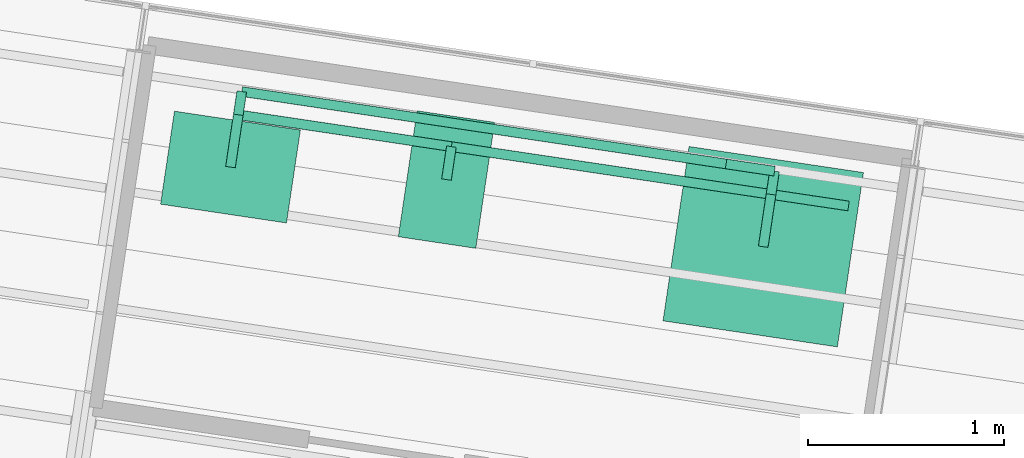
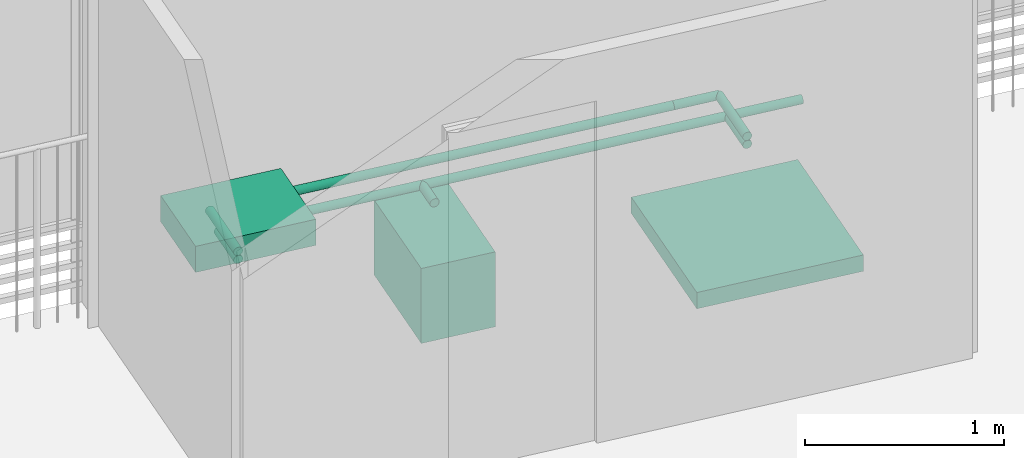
# One storey, part 34 of 34: 10 pipe segments, 3 sanitary terminals.
"""IFC4 building model written with IfcOpenShell, lengths in metres."""

from ifc_helpers import new_model, si_unit, direction, frame, origin_with_axes, place, context, subcontext, project, spatial, polyline, circle, outline, extrude, material, material_profile, profile_set, profile_usage, type_object, element, save


model = new_model("IFC4")

# Units and contexts
model_context = context("Model", 3, precision=1e-05, world=origin_with_axes(), true_north=direction((0.0, 1.0)))
body_context = subcontext(model_context, "Body", "Model", "MODEL_VIEW")
ifc_project = project(units=[si_unit("VOLUMEUNIT", "CUBIC_METRE"), si_unit("LENGTHUNIT", "METRE"), si_unit("AREAUNIT", "SQUARE_METRE")], contexts=[model_context])

# Site, building, storey
site_placement = place(None, origin_with_axes())
site = spatial("IfcSite", under=ifc_project, at=site_placement, Name="Lares · Rua das Mercês · artigo 4771")
building_placement = place(site_placement, frame((12.0, 10.2, 13.9), z_axis=(0.0, 0.0, 1.0), x_axis=(0.989015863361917, -0.147809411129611, 0.0)))
building = spatial("IfcBuilding", under=site, at=building_placement, Name="Casa Sobreposta")
storey_placement = place(building_placement, frame((0.0, 0.0, 3.24), z_axis=(0.0, 0.0, 1.0), x_axis=(1.0, 0.0, 0.0)))
storey = spatial("IfcBuildingStorey", under=building, at=storey_placement, Name="01 · Jardim de inverno", Elevation=17.14)

# Pipe segments
ifc_material_1 = material(Name="cold · traçado de estudo", Category="schematic services")
ifc_material_profile_1 = material_profile(ifc_material_1, circle(Radius=0.025))
ifc_profile_set_1 = profile_set([ifc_material_profile_1], Name="D0.05")
ifc_profile_usage_1 = profile_usage(ifc_profile_set_1)
pipe_segment_type_1 = type_object("IfcPipeSegmentType", Name="D0.05 / cold", PredefinedType="NOTDEFINED", material=ifc_profile_set_1)
pipe_segment_1_placement = place(storey_placement, frame((11.7, 5.92, 0.6), z_axis=(-1.0, 0.0, 0.0), x_axis=(0.0, 1.0, 0.0)))
element("IfcPipeSegment", 1, at=pipe_segment_1_placement, inside=storey, type_object=pipe_segment_type_1, material=ifc_profile_usage_1, Name="AF · banho superior · Lavatório", context=body_context, shape_type="SweptSolid", body=[
    extrude(circle(Radius=0.025), origin_with_axes(), (0.0, 0.0, 1.0), 3.15),
])
ifc_profile_usage_2 = profile_usage(ifc_profile_set_1)
pipe_segment_2_placement = place(storey_placement, frame((8.55, 5.92, 0.6), z_axis=(0.0, -1.0, 0.0), x_axis=(-1.0, 0.0, 0.0)))
element("IfcPipeSegment", 2, at=pipe_segment_2_placement, inside=storey, type_object=pipe_segment_type_1, material=ifc_profile_usage_2, Name="AF · banho superior · Lavatório", context=body_context, shape_type="SweptSolid", body=[
    extrude(circle(Radius=0.025), origin_with_axes(), (0.0, 0.0, 1.0), 0.27),
])
ifc_profile_usage_3 = profile_usage(ifc_profile_set_1)
pipe_segment_3_placement = place(storey_placement, frame((11.7, 5.92, 0.6), z_axis=(-1.0, 0.0, 0.0), x_axis=(0.0, 1.0, 0.0)))
element("IfcPipeSegment", 3, at=pipe_segment_3_placement, inside=storey, type_object=pipe_segment_type_1, material=ifc_profile_usage_3, Name="AF · banho superior · Duche", context=body_context, shape_type="SweptSolid", body=[
    extrude(circle(Radius=0.025), origin_with_axes(), (0.0, 0.0, 1.0), 0.399999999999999),
])
ifc_profile_usage_4 = profile_usage(ifc_profile_set_1)
pipe_segment_4_placement = place(storey_placement, frame((11.3, 5.92, 0.6), z_axis=(0.0, -1.0, 0.0), x_axis=(-1.0, 0.0, 0.0)))
element("IfcPipeSegment", 4, at=pipe_segment_4_placement, inside=storey, type_object=pipe_segment_type_1, material=ifc_profile_usage_4, Name="AF · banho superior · Duche", context=body_context, shape_type="SweptSolid", body=[
    extrude(circle(Radius=0.025), origin_with_axes(), (0.0, 0.0, 1.0), 0.27),
])
ifc_profile_usage_5 = profile_usage(ifc_profile_set_1)
pipe_segment_5_placement = place(storey_placement, frame((11.7, 5.92, 0.6), z_axis=(-1.0, 0.0, 0.0), x_axis=(0.0, 1.0, 0.0)))
element("IfcPipeSegment", 5, at=pipe_segment_5_placement, inside=storey, type_object=pipe_segment_type_1, material=ifc_profile_usage_5, Name="AF · banho superior · Sanita", context=body_context, shape_type="SweptSolid", body=[
    extrude(circle(Radius=0.025), origin_with_axes(), (0.0, 0.0, 1.0), 2.05),
])
ifc_profile_usage_6 = profile_usage(ifc_profile_set_1)
pipe_segment_6_placement = place(storey_placement, frame((9.65, 5.92, 0.6), z_axis=(0.0, -1.0, 0.0), x_axis=(-1.0, 0.0, 0.0)))
element("IfcPipeSegment", 6, at=pipe_segment_6_placement, inside=storey, type_object=pipe_segment_type_1, material=ifc_profile_usage_6, Name="AF · banho superior · Sanita", context=body_context, shape_type="SweptSolid", body=[
    extrude(circle(Radius=0.025), origin_with_axes(), (0.0, 0.0, 1.0), 0.17),
])
ifc_material_2 = material(Name="hot · traçado de estudo", Category="schematic services")
ifc_material_profile_2 = material_profile(ifc_material_2, circle(Radius=0.025))
ifc_profile_set_2 = profile_set([ifc_material_profile_2], Name="D0.05")
ifc_profile_usage_7 = profile_usage(ifc_profile_set_2)
pipe_segment_type_2 = type_object("IfcPipeSegmentType", Name="D0.05 / hot", PredefinedType="NOTDEFINED", material=ifc_profile_set_2)
pipe_segment_7_placement = place(storey_placement, frame((11.05, 6.04, 0.65), z_axis=(-1.0, 0.0, 0.0), x_axis=(0.0, 1.0, 0.0)))
element("IfcPipeSegment", 7, at=pipe_segment_7_placement, inside=storey, type_object=pipe_segment_type_2, material=ifc_profile_usage_7, Name="AQ · banho superior · Lavatório", context=body_context, shape_type="SweptSolid", body=[
    extrude(circle(Radius=0.025), origin_with_axes(), (0.0, 0.0, 1.0), 2.5),
])
ifc_profile_usage_8 = profile_usage(ifc_profile_set_2)
pipe_segment_8_placement = place(storey_placement, frame((8.55, 6.04, 0.65), z_axis=(0.0, -1.0, 0.0), x_axis=(-1.0, 0.0, 0.0)))
element("IfcPipeSegment", 8, at=pipe_segment_8_placement, inside=storey, type_object=pipe_segment_type_2, material=ifc_profile_usage_8, Name="AQ · banho superior · Lavatório", context=body_context, shape_type="SweptSolid", body=[
    extrude(circle(Radius=0.025), origin_with_axes(), (0.0, 0.0, 1.0), 0.39),
])
ifc_profile_usage_9 = profile_usage(ifc_profile_set_2)
pipe_segment_9_placement = place(storey_placement, frame((11.05, 6.04, 0.65), z_axis=(1.0, 0.0, 0.0), x_axis=(0.0, -1.0, 0.0)))
element("IfcPipeSegment", 9, at=pipe_segment_9_placement, inside=storey, type_object=pipe_segment_type_2, material=ifc_profile_usage_9, Name="AQ · banho superior · Duche", context=body_context, shape_type="SweptSolid", body=[
    extrude(circle(Radius=0.025), origin_with_axes(), (0.0, 0.0, 1.0), 0.25),
])
ifc_profile_usage_10 = profile_usage(ifc_profile_set_2)
pipe_segment_10_placement = place(storey_placement, frame((11.3, 6.04, 0.65), z_axis=(0.0, -1.0, 0.0), x_axis=(-1.0, 0.0, 0.0)))
element("IfcPipeSegment", 10, at=pipe_segment_10_placement, inside=storey, type_object=pipe_segment_type_2, material=ifc_profile_usage_10, Name="AQ · banho superior · Duche", context=body_context, shape_type="SweptSolid", body=[
    extrude(circle(Radius=0.025), origin_with_axes(), (0.0, 0.0, 1.0), 0.39),
])

# Sanitary terminals
ifc_material_3 = material(Name="Cerâmica sanitária — esquema", Category="ceramic")
sanitary_terminal_1_placement = place(storey_placement, frame((0.0, 0.0, 0.76), z_axis=(0.0, 0.0, 1.0), x_axis=(1.0, 0.0, 0.0)))
element("IfcSanitaryTerminal", 11, at=sanitary_terminal_1_placement, inside=storey, material=ifc_material_3, Name="Lavatório superior", PredefinedType="WASHHANDBASIN", context=body_context, shape_type="SweptSolid", body=[
    extrude(outline(polyline([(8.875, 5.41), (8.875, 5.89), (8.225, 5.89), (8.225, 5.41), (8.875, 5.41)])), origin_with_axes(), (0.0, 0.0, 1.0), 0.16),
])
sanitary_terminal_2_placement = place(storey_placement, origin_with_axes())
element("IfcSanitaryTerminal", 12, at=sanitary_terminal_2_placement, inside=storey, material=ifc_material_3, Name="Sanita superior", PredefinedType="TOILETPAN", context=body_context, shape_type="SweptSolid", body=[
    extrude(outline(polyline([(9.85, 5.425), (9.85, 6.075), (9.45, 6.075), (9.45, 5.425), (9.85, 5.425)])), origin_with_axes(), (0.0, 0.0, 1.0), 0.46),
])
sanitary_terminal_3_placement = place(storey_placement, origin_with_axes())
element("IfcSanitaryTerminal", 13, at=sanitary_terminal_3_placement, inside=storey, material=ifc_material_3, Name="Duche superior", PredefinedType="SHOWER", context=body_context, shape_type="SweptSolid", body=[
    extrude(outline(polyline([(11.75, 5.2), (11.75, 6.1), (10.85, 6.1), (10.85, 5.2), (11.75, 5.2)])), origin_with_axes(), (0.0, 0.0, 1.0), 0.1),
])

save(model, "model.ifc")
